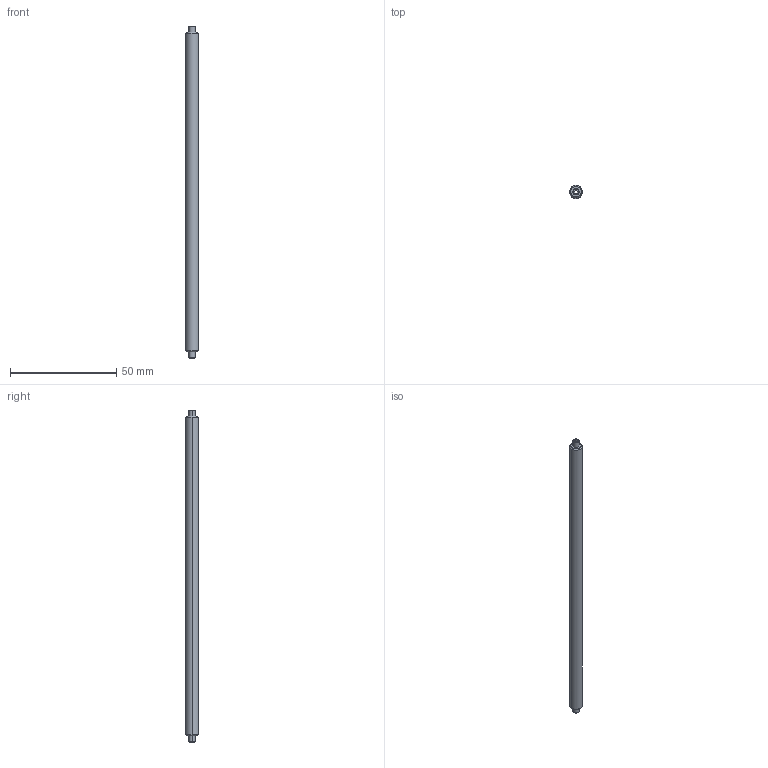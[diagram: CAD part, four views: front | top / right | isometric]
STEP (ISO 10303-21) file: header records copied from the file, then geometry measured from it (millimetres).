
FILE_DESCRIPTION (( 'STEP AP203' ), '1' );
FILE_NAME ('CSSP-150.STEP', '2023-11-24T04:56:02', ( '' ), ( '' ), 'SwSTEP 2.0', 'SolidWorks 2021', '' );
FILE_SCHEMA (( 'CONFIG_CONTROL_DESIGN' ));
Length unit declared in the file: millimetre
Products named in the file (1): CSSP-150
Bounding box: 6 x 6 x 156 mm (x, y, z)
Surface area: 3023.4 mm2 (no closed solid volume)
Topology: 0 solids, 3 shells, 30 faces, 74 edges, 48 vertices
Faces by surface type: plane 16, cone 8, cylinder 6
Entity records: 953 total; most frequent: DIRECTION 160, CARTESIAN_POINT 153, ORIENTED_EDGE 128, EDGE_CURVE 74, AXIS2_PLACEMENT_3D 55, VECTOR 50, LINE 50, VERTEX_POINT 48
